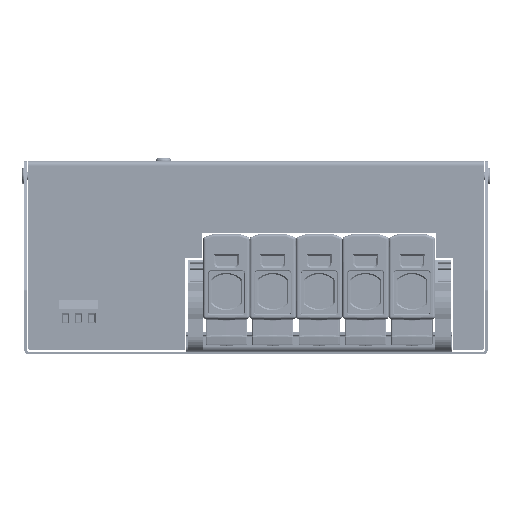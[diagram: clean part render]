
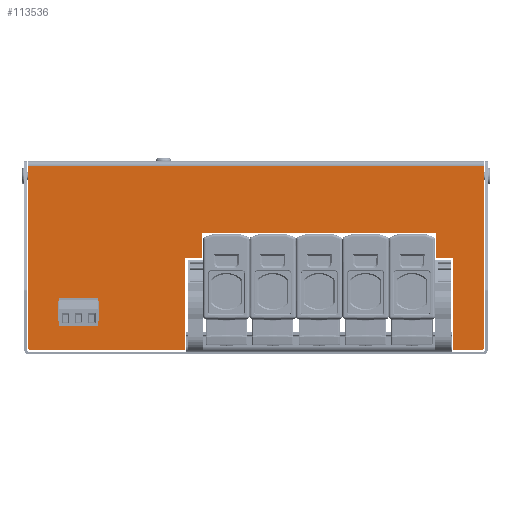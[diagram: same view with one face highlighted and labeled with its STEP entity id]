
A CAD part, left-side view. The second image highlights one B-rep face of the part: STEP entity #113536.
In plain terms, the highlighted planar face has unit normal (-1, 0, 0).
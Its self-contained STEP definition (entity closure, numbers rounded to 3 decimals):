
#3330=PLANE('',#121280);
#7596=LINE('',#162221,#20081);
#7630=LINE('',#162299,#20115);
#7633=LINE('',#162304,#20118);
#7635=LINE('',#162308,#20120);
#7637=LINE('',#162311,#20122);
#7738=LINE('',#162770,#20223);
#7741=LINE('',#162779,#20226);
#7744=LINE('',#162784,#20229);
#7746=LINE('',#162788,#20231);
#7748=LINE('',#162793,#20233);
#7750=LINE('',#162796,#20235);
#7756=LINE('',#162810,#20241);
#7757=LINE('',#162812,#20242);
#7759=LINE('',#162816,#20244);
#7760=LINE('',#162818,#20245);
#7764=LINE('',#162833,#20249);
#20081=VECTOR('',#132241,91.);
#20115=VECTOR('',#132291,7.6);
#20118=VECTOR('',#132296,15.9);
#20120=VECTOR('',#132300,7.6);
#20122=VECTOR('',#132304,15.9);
#20223=VECTOR('',#133011,70.5);
#20226=VECTOR('',#133020,70.5);
#20229=VECTOR('',#133025,9.5);
#20231=VECTOR('',#133029,6.5);
#20233=VECTOR('',#133033,6.5);
#20235=VECTOR('',#133037,9.5);
#20241=VECTOR('',#133057,36.);
#20242=VECTOR('',#133060,11.);
#20244=VECTOR('',#133064,60.);
#20245=VECTOR('',#133067,36.);
#20249=VECTOR('',#133093,177.);
#34510=FACE_BOUND('',#44054,.T.);
#35672=FACE_OUTER_BOUND('',#44053,.T.);
#44053=EDGE_LOOP('',(#82897,#82898,#82899,#82900,#82901,#82902,#82903,#82904,
#82905,#82906,#82907,#82908,#82909,#82910));
#44054=EDGE_LOOP('',(#82911,#82912,#82913,#82914));
#51101=CIRCLE('',#121244,1.);
#51102=CIRCLE('',#121247,1.);
#53899=VERTEX_POINT('',#162219);
#53900=VERTEX_POINT('',#162220);
#53935=VERTEX_POINT('',#162297);
#53936=VERTEX_POINT('',#162298);
#53937=VERTEX_POINT('',#162303);
#53938=VERTEX_POINT('',#162307);
#53991=VERTEX_POINT('',#162762);
#53992=VERTEX_POINT('',#162764);
#53993=VERTEX_POINT('',#162768);
#53994=VERTEX_POINT('',#162772);
#53995=VERTEX_POINT('',#162774);
#53996=VERTEX_POINT('',#162778);
#53997=VERTEX_POINT('',#162782);
#53998=VERTEX_POINT('',#162786);
#53999=VERTEX_POINT('',#162790);
#54000=VERTEX_POINT('',#162792);
#54001=VERTEX_POINT('',#162808);
#54002=VERTEX_POINT('',#162814);
#64781=EDGE_CURVE('',#53899,#53900,#7596,.T.);
#64819=EDGE_CURVE('',#53935,#53936,#7630,.T.);
#64822=EDGE_CURVE('',#53937,#53935,#7633,.T.);
#64824=EDGE_CURVE('',#53938,#53937,#7635,.T.);
#64826=EDGE_CURVE('',#53936,#53938,#7637,.T.);
#64951=EDGE_CURVE('',#53991,#53992,#51101,.T.);
#64954=EDGE_CURVE('',#53993,#53991,#7738,.T.);
#64956=EDGE_CURVE('',#53994,#53995,#51102,.T.);
#64958=EDGE_CURVE('',#53995,#53996,#7741,.T.);
#64961=EDGE_CURVE('',#53900,#53997,#7744,.T.);
#64963=EDGE_CURVE('',#53997,#53998,#7746,.T.);
#64965=EDGE_CURVE('',#54000,#53999,#7748,.T.);
#64967=EDGE_CURVE('',#53999,#53899,#7750,.T.);
#64973=EDGE_CURVE('',#53998,#54001,#7756,.T.);
#64974=EDGE_CURVE('',#54001,#53992,#7757,.T.);
#64976=EDGE_CURVE('',#53994,#54002,#7759,.T.);
#64977=EDGE_CURVE('',#54002,#54000,#7760,.T.);
#64985=EDGE_CURVE('',#53993,#53996,#7764,.T.);
#82897=ORIENTED_EDGE('',*,*,#64961,.T.);
#82898=ORIENTED_EDGE('',*,*,#64963,.T.);
#82899=ORIENTED_EDGE('',*,*,#64973,.T.);
#82900=ORIENTED_EDGE('',*,*,#64974,.T.);
#82901=ORIENTED_EDGE('',*,*,#64951,.F.);
#82902=ORIENTED_EDGE('',*,*,#64954,.F.);
#82903=ORIENTED_EDGE('',*,*,#64985,.T.);
#82904=ORIENTED_EDGE('',*,*,#64958,.F.);
#82905=ORIENTED_EDGE('',*,*,#64956,.F.);
#82906=ORIENTED_EDGE('',*,*,#64976,.T.);
#82907=ORIENTED_EDGE('',*,*,#64977,.T.);
#82908=ORIENTED_EDGE('',*,*,#64965,.T.);
#82909=ORIENTED_EDGE('',*,*,#64967,.T.);
#82910=ORIENTED_EDGE('',*,*,#64781,.T.);
#82911=ORIENTED_EDGE('',*,*,#64819,.T.);
#82912=ORIENTED_EDGE('',*,*,#64826,.T.);
#82913=ORIENTED_EDGE('',*,*,#64824,.T.);
#82914=ORIENTED_EDGE('',*,*,#64822,.T.);
#113536=ADVANCED_FACE('',(#35672,#34510),#3330,.T.);
#121244=AXIS2_PLACEMENT_3D('',#162765,#133005,#133006);
#121247=AXIS2_PLACEMENT_3D('',#162775,#133015,#133016);
#121280=AXIS2_PLACEMENT_3D('',#162840,#133106,#133107);
#132241=DIRECTION('',(0.,-1.,0.));
#132291=DIRECTION('',(0.,0.,1.));
#132296=DIRECTION('',(0.,1.,0.));
#132300=DIRECTION('',(0.,0.,-1.));
#132304=DIRECTION('',(0.,-1.,0.));
#133005=DIRECTION('center_axis',(1.,0.,0.));
#133006=DIRECTION('ref_axis',(0.,-0.707,-0.707));
#133011=DIRECTION('',(0.,0.,-1.));
#133015=DIRECTION('center_axis',(1.,0.,0.));
#133016=DIRECTION('ref_axis',(0.,0.707,-0.707));
#133020=DIRECTION('',(0.,0.,1.));
#133025=DIRECTION('',(0.,0.,-1.));
#133029=DIRECTION('',(0.,-1.,0.));
#133033=DIRECTION('',(0.,-1.,0.));
#133037=DIRECTION('',(0.,0.,1.));
#133057=DIRECTION('',(0.,0.,-1.));
#133060=DIRECTION('',(0.,-1.,0.));
#133064=DIRECTION('',(0.,-1.,0.));
#133067=DIRECTION('',(0.,0.,1.));
#133093=DIRECTION('',(0.,1.,0.));
#133106=DIRECTION('center_axis',(-1.,0.,0.));
#133107=DIRECTION('ref_axis',(0.,0.,
1.));
#162219=CARTESIAN_POINT('',(-118.,21.,-27.));
#162220=CARTESIAN_POINT('',(-118.,-70.,-27.));
#162221=CARTESIAN_POINT('',(-118.,-35.,-27.));
#162297=CARTESIAN_POINT('',(-118.,76.7,-60.9));
#162298=CARTESIAN_POINT('',(-118.,76.7,-53.3));
#162299=CARTESIAN_POINT('',(-118.,76.7,-37.635));
#162303=CARTESIAN_POINT('',(-118.,60.8,-60.9));
#162304=CARTESIAN_POINT('',(-118.,30.4,-60.9));
#162307=CARTESIAN_POINT('',(-118.,60.8,-53.3));
#162308=CARTESIAN_POINT('',(-118.,60.8,-33.835));
#162311=CARTESIAN_POINT('',(-118.,38.35,-53.3));
#162762=CARTESIAN_POINT('',(-118.,-88.5,-71.5));
#162764=CARTESIAN_POINT('',(-118.,-87.5,-72.5));
#162765=CARTESIAN_POINT('Origin',(-118.,-87.5,-71.5));
#162768=CARTESIAN_POINT('',(-118.,-88.5,-1.));
#162770=CARTESIAN_POINT('',(-118.,-88.5,-1.));
#162772=CARTESIAN_POINT('',(-118.,87.5,-72.5));
#162774=CARTESIAN_POINT('',(-118.,88.5,-71.5));
#162775=CARTESIAN_POINT('Origin',(-118.,87.5,-71.5));
#162778=CARTESIAN_POINT('',(-118.,88.5,-1.));
#162779=CARTESIAN_POINT('',(-118.,88.5,3.524));
#162782=CARTESIAN_POINT('',(-118.,-70.,-36.5));
#162784=CARTESIAN_POINT('',(-118.,-70.,-25.435));
#162786=CARTESIAN_POINT('',(-118.,-76.5,-36.5));
#162788=CARTESIAN_POINT('',(-118.,-70.,-36.5));
#162790=CARTESIAN_POINT('',(-118.,21.,-36.5));
#162792=CARTESIAN_POINT('',(-118.,27.5,-36.5));
#162793=CARTESIAN_POINT('',(-118.,27.5,-36.5));
#162796=CARTESIAN_POINT('',(-118.,21.,-20.685));
#162808=CARTESIAN_POINT('',(-118.,-76.5,-72.5));
#162810=CARTESIAN_POINT('',(-118.,-76.5,-30.));
#162812=CARTESIAN_POINT('',(-118.,-76.5,-72.5));
#162814=CARTESIAN_POINT('',(-118.,27.5,-72.5));
#162816=CARTESIAN_POINT('',(-118.,88.5,-72.5));
#162818=CARTESIAN_POINT('',(-118.,27.5,-72.5));
#162833=CARTESIAN_POINT('',(-118.,0.,-1.));
#162840=CARTESIAN_POINT('Origin',(-118.,0.,-14.369));
